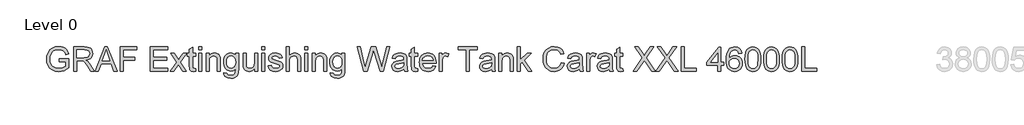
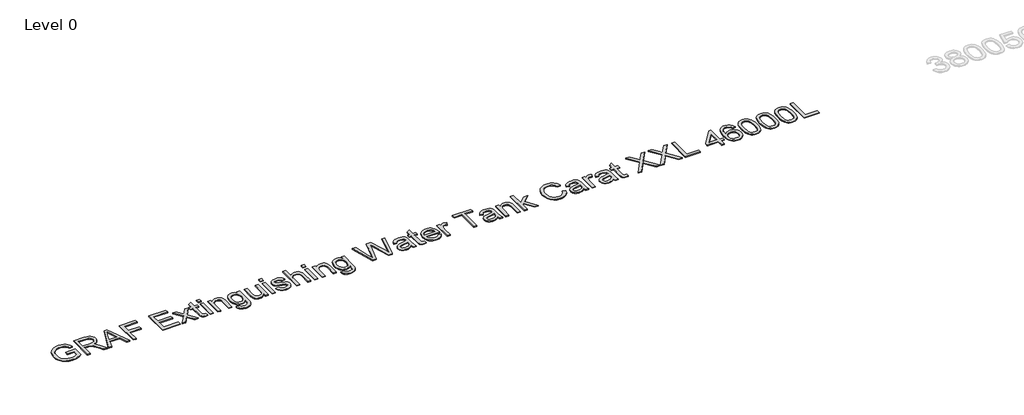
# One storey, part 7 of 37: 1 proxy.
"""IFC4 building model written with IfcOpenShell, lengths in millimetres."""

from ifc_helpers import new_model, si_unit, origin, origin_with_axes, place, context, project, spatial, polyline, outline, extrude, element, save

model = new_model("IFC4")

# Units and contexts
model_context = context("Model", 3, world=origin())
ifc_project = project(units=[si_unit("LENGTHUNIT", "METRE", prefix="MILLI")], contexts=[model_context])

# Site, building, storey
site = spatial("IfcSite", under=ifc_project)
building = spatial("IfcBuilding", under=site)
storey = spatial("IfcBuildingStorey", under=building, Name="Level 0", Elevation=0.0)

# Proxy
placement = place(None, origin())
element("IfcBuildingElementProxy", 1, Name="300mm Arial", ObjectType="300mm Arial", at=placement, inside=storey, context=model_context, shape_type="SweptSolid", body=[
    extrude(outline(polyline([(-17240.9940387, -25583.2545597), (-17240.9940387, -25545.5834434), (-17118.5629107, -25545.5834434), (-17118.5629107, -25658.2289103), (-17148.3153671, -25678.9222726), (-17179.0059225, -25693.7663111), (-17210.5610007, -25702.7058436), (-17242.9070251, -25705.6856877), (-17285.1674693, -25700.949207), (-17323.3628175, -25686.739765), (-17355.0926395, -25663.5540022), (-17377.9565055, -25631.8885595), (-17391.7796715, -25593.9047435), (-17396.3873935, -25551.7638609), (-17391.7980656, -25509.3194757), (-17378.0300819, -25469.8365406), (-17355.6536596, -25436.717964), (-17325.2390156, -25413.3666543), (-17288.1932987, -25399.5158972), (-17245.9236575, -25394.8989782), (-17214.8928112, -25397.5753197), (-17186.9889618, -25405.6043443), (-17163.4904994, -25418.4066377), (-17145.6758138, -25435.4027859), (-17132.4964413, -25457.4113262), (-17122.9039183, -25485.2507962), (-17157.6319786, -25495.0364573), (-17165.3850917, -25475.1800266), (-17174.8120678, -25460.1980323), (-17187.2832674, -25448.9040551), (-17204.169051, -25440.1116754), (-17224.3013932, -25434.4554897), (-17246.5122687, -25432.5700945), (-17272.5123287, -25434.6026425), (-17294.7415982, -25440.7002866), (-17313.1173039, -25450.0996716), (-17327.5566722, -25462.0374423), (-17346.9440533, -25491.0633317), (-17355.7732212, -25519.50061), (-17358.7162772, -25550.2187566), (-17355.175413, -25586.2436009), (-17344.5528204, -25615.8856927), (-17327.1703961, -25638.9334997), (-17303.3500369, -25655.1754898), (-17275.4737787, -25664.804801), (-17245.9236575, -25668.0145714), (-17219.831627, -25665.5957473), (-17194.3833899, -25658.3392749), (-17172.2828791, -25648.3420817), (-17156.234027, -25637.701095), (-17156.234027, -25583.2545597), (-17240.9940387, -25583.2545597)])), origin_with_axes(), (0.0, 0.0, 1.0), 10.0),
    extrude(outline(polyline([(-17057.3473467, -25700.9767982), (-17057.3473467, -25399.6078677), (-16927.4850024, -25399.6078677), (-16892.5821982, -25401.6404158), (-16867.1891434, -25407.7380598), (-16848.6294968, -25418.9952489), (-16834.2269167, -25436.5064318), (-16824.9838815, -25458.2206666), (-16821.9028698, -25482.087011), (-16827.0072325, -25511.7750881), (-16842.3203206, -25536.3863935), (-16853.9200997, -25546.4157764), (-16868.3019865, -25554.4310054), (-16905.4120827, -25564.4190016), (-16884.0013506, -25580.532233), (-16853.467145, -25619.3069952), (-16803.2144645, -25700.9767982), (-16846.9924219, -25700.9767982), (-16886.2086426, -25638.5104354), (-16914.5355562, -25597.1604991), (-16934.4379722, -25577.6259652), (-16952.3538253, -25570.4522663), (-16974.2060158, -25569.1278911), (-17019.6762304, -25569.1278911), (-17019.6762304, -25700.9767982), (-17057.3473467, -25700.9767982)]), holes=[polyline([(-17019.6762304, -25531.4567748), (-16935.3576771, -25531.4567748), (-16911.1418448, -25530.1232026), (-16892.3522719, -25526.1224859), (-16878.2072092, -25519.1879103), (-16867.9249074, -25509.0527613), (-16861.6617165, -25496.7930938), (-16859.5739861, -25483.4849626), (-16863.5563087, -25465.109257), (-16875.5032765, -25450.3020067), (-16896.058683, -25440.5347397), (-16925.8663217, -25437.278984), (-17019.6762304, -25437.278984), (-17019.6762304, -25531.4567748)])]), origin_with_axes(), (0.0, 0.0, 1.0), 10.0),
    extrude(outline(polyline([(-16791.0743586, -25700.9767982), (-16670.7769462, -25399.6078677), (-16638.6976362, -25399.6078677), (-16518.4002238, -25700.9767982), (-16558.2050557, -25700.9767982), (-16592.7123868, -25606.7990074), (-16716.835772, -25606.7990074), (-16751.2695268, -25700.9767982), (-16791.0743586, -25700.9767982)]), holes=[polyline([(-16703.003409, -25569.1278911), (-16606.4711735, -25569.1278911), (-16633.6208647, -25495.0364573), (-16654.7372912, -25437.278984), (-16673.499273, -25488.5617342), (-16703.003409, -25569.1278911)])]), origin_with_axes(), (0.0, 0.0, 1.0), 10.0),
    extrude(outline(polyline([(-16478.1539335, -25700.9767982), (-16478.1539335, -25399.6078677), (-16275.6716834, -25399.6078677), (-16275.6716834, -25437.278984), (-16440.4828172, -25437.278984), (-16440.4828172, -25526.7478853), (-16299.2161311, -25526.7478853), (-16299.2161311, -25564.4190016), (-16440.4828172, -25564.4190016), (-16440.4828172, -25700.9767982), (-16478.1539335, -25700.9767982)])), origin_with_axes(), (0.0, 0.0, 1.0), 10.0),
    extrude(outline(polyline([(-16106.15166, -25700.9767982), (-16106.15166, -25399.6078677), (-15889.5427413, -25399.6078677), (-15889.5427413, -25437.278984), (-16068.4805437, -25437.278984), (-16068.4805437, -25526.7478853), (-15898.9605203, -25526.7478853), (-15898.9605203, -25564.4190016), (-16068.4805437, -25564.4190016), (-16068.4805437, -25663.3056819), (-15884.8338517, -25663.3056819), (-15884.8338517, -25700.9767982), (-16106.15166, -25700.9767982)])), origin_with_axes(), (0.0, 0.0, 1.0), 10.0),
    extrude(outline(polyline([(-15856.5805145, -25700.9767982), (-15776.0879339, -25589.7292828), (-15851.8716249, -25479.6589899), (-15806.5485631, -25479.6589899), (-15769.9810928, -25532.6339972), (-15752.9113682, -25557.6499729), (-15738.122512, -25537.1957339), (-15696.4782702, -25479.6589899), (-15651.1552084, -25479.6589899), (-15730.7648721, -25589.7292828), (-15654.0982643, -25700.9767982), (-15699.4213261, -25700.9767982), (-15745.5537283, -25634.0958515), (-15754.0150142, -25621.8821692), (-15811.2574527, -25700.9767982), (-15856.5805145, -25700.9767982)])), origin_with_axes(), (0.0, 0.0, 1.0), 10.0),
    extrude(outline(polyline([(-15541.0849154, -25669.5596758), (-15536.3760259, -25702.0804442), (-15564.5557867, -25705.6856877), (-15582.6371868, -25704.1221892), (-15596.1200619, -25699.4316938), (-15605.6482056, -25692.2028126), (-15611.8654113, -25683.0241568), (-15615.2867139, -25667.2604133), (-15616.427148, -25640.276269), (-15616.427148, -25517.3301062), (-15644.6804853, -25517.3301062), (-15644.6804853, -25479.6589899), (-15616.427148, -25479.6589899), (-15616.427148, -25425.8746422), (-15578.7560317, -25403.7281461), (-15578.7560317, -25479.6589899), (-15541.0849154, -25479.6589899), (-15541.0849154, -25517.3301062), (-15578.7560317, -25517.3301062), (-15578.7560317, -25639.172623), (-15576.769469, -25658.5967923), (-15570.331534, -25665.4761856), (-15557.4924524, -25668.0145714), (-15541.0849154, -25669.5596758)])), origin_with_axes(), (0.0, 0.0, 1.0), 10.0),
    extrude(outline(polyline([(-15503.4137991, -25437.278984), (-15503.4137991, -25399.6078677), (-15465.7426828, -25399.6078677), (-15465.7426828, -25437.278984), (-15503.4137991, -25437.278984)])), origin_with_axes(), (0.0, 0.0, 1.0), 10.0),
    extrude(outline(polyline([(-15503.4137991, -25700.9767982), (-15503.4137991, -25479.6589899), (-15465.7426828, -25479.6589899), (-15465.7426828, -25700.9767982), (-15503.4137991, -25700.9767982)])), origin_with_axes(), (0.0, 0.0, 1.0), 10.0),
    extrude(outline(polyline([(-15409.2360084, -25700.9767982), (-15409.2360084, -25479.6589899), (-15371.564892, -25479.6589899), (-15371.564892, -25510.5610775), (-15358.4774901, -25494.981275), (-15342.7597318, -25483.8528446), (-15324.4116173, -25477.1757864), (-15303.4331465, -25474.9501003), (-15284.8643028, -25476.7435251), (-15267.8589576, -25482.1237992), (-15253.6771067, -25490.4195382), (-15243.5787459, -25500.9593574), (-15232.2847687, -25528.6608716), (-15230.2982059, -25565.0811892), (-15230.2982059, -25700.9767982), (-15267.9693222, -25700.9767982), (-15267.9693222, -25570.1579607), (-15272.3103297, -25536.8278519), (-15278.3160033, -25526.9042351), (-15287.6510089, -25519.2063044), (-15299.6163708, -25514.2674886), (-15313.5131132, -25512.6212166), (-15335.5768359, -25516.3184307), (-15354.3848029, -25527.4100729), (-15361.9010919, -25536.4645685), (-15367.2698698, -25548.8391991), (-15371.564892, -25583.5488653), (-15371.564892, -25700.9767982), (-15409.2360084, -25700.9767982)])), origin_with_axes(), (0.0, 0.0, 1.0), 10.0),
    extrude(outline(polyline([(-15187.9182001, -25719.8123563), (-15150.2470837, -25724.5212459), (-15146.0900172, -25736.2934697), (-15138.0334015, -25744.3868736), (-15122.1960816, -25750.6776557), (-15101.4659312, -25752.7745831), (-15079.3562233, -25750.4017442), (-15062.9118981, -25743.2832276), (-15051.5075562, -25731.8788858), (-15044.5177983, -25716.6485712), (-15041.9426244, -25672.7234609), (-15054.4782034, -25685.084296), (-15068.4669162, -25693.9134639), (-15083.908763, -25699.2109646), (-15100.8037436, -25700.9767982), (-15121.4580184, -25698.9212575), (-15139.6428852, -25692.7546356), (-15155.3583442, -25682.4769323), (-15168.6043953, -25668.0881478), (-15179.1143241, -25650.8252852), (-15186.621416, -25631.9253477), (-15191.1256712, -25611.3883353), (-15192.6270896, -25589.214248), (-15189.932354, -25558.7996041), (-15181.8481471, -25530.8313754), (-15168.6595776, -25507.1305779), (-15150.6517539, -25489.5182274), (-15128.4408785, -25478.5921321), (-15102.6431536, -25474.9501003), (-15085.0262045, -25477.0102395), (-15069.0371333, -25483.190657), (-15054.6759399, -25493.4913529), (-15041.9426244, -25507.9123271), (-15041.9426244, -25479.6589899), (-15004.2715081, -25479.6589899), (-15004.2715081, -25670.7368982), (-15006.846682, -25714.8551464), (-15014.5722039, -25743.908627), (-15027.8803351, -25763.1764465), (-15047.2033369, -25777.9377116), (-15072.118145, -25787.3187024), (-15102.2016952, -25790.4456994), (-15137.2516523, -25786.0403125), (-15164.851999, -25772.8241518), (-15175.2469646, -25762.9028343), (-15182.55632, -25750.7604292), (-15186.7800651, -25736.3969365), (-15187.9182001, -25719.8123563)]), holes=[polyline([(-15154.9559733, -25586.6390741), (-15150.9368625, -25621.1923905), (-15138.8795301, -25644.9483703), (-15120.7521448, -25658.716354), (-15098.5228752, -25663.3056819), (-15076.4591526, -25658.7439451), (-15058.2397968, -25645.0587349), (-15046.0169175, -25621.6062577), (-15041.9426244, -25587.7427201), (-15046.1364791, -25555.0839959), (-15058.7180433, -25531.5671394), (-15077.2041136, -25517.3576973), (-15099.1114864, -25512.6212166), (-15120.6233861, -25517.2841209), (-15138.6588009, -25531.2728338), (-15150.8816802, -25554.4402024), (-15154.9559733, -25586.6390741)])]), origin_with_axes(), (0.0, 0.0, 1.0), 10.0),
    extrude(outline(polyline([(-14806.4981475, -25700.9767982), (-14806.4981475, -25662.9377999), (-14820.1281754, -25681.6400008), (-14836.0022835, -25694.9987158), (-14854.1204717, -25703.0139447), (-14874.4827402, -25705.6856877), (-14892.8308547, -25703.8094895), (-14909.9097763, -25698.180895), (-14924.23878, -25689.7196091), (-14934.3371408, -25679.3453369), (-14945.5575416, -25651.6070344), (-14947.7648336, -25616.5846685), (-14947.7648336, -25479.6589899), (-14910.0937173, -25479.6589899), (-14910.0937173, -25598.8527563), (-14907.8128489, -25637.2596366), (-14902.3222101, -25650.0711271), (-14892.9136281, -25659.8108029), (-14880.2125022, -25665.9636293), (-14864.8442319, -25668.0145714), (-14848.5930448, -25665.917644), (-14833.3903213, -25659.6268619), (-14820.8547423, -25649.7216392), (-14812.6049886, -25636.78139), (-14808.0248577, -25619.0586749), (-14806.4981475, -25594.8060544), (-14806.4981475, -25479.6589899), (-14768.8270311, -25479.6589899), (-14768.8270311, -25700.9767982), (-14806.4981475, -25700.9767982)])), origin_with_axes(), (0.0, 0.0, 1.0), 10.0),
    extrude(outline(polyline([(-14717.0292462, -25437.278984), (-14717.0292462, -25399.6078677), (-14679.3581299, -25399.6078677), (-14679.3581299, -25437.278984), (-14717.0292462, -25437.278984)])), origin_with_axes(), (0.0, 0.0, 1.0), 10.0),
    extrude(outline(polyline([(-14717.0292462, -25700.9767982), (-14717.0292462, -25479.6589899), (-14679.3581299, -25479.6589899), (-14679.3581299, -25700.9767982), (-14717.0292462, -25700.9767982)])), origin_with_axes(), (0.0, 0.0, 1.0), 10.0),
    extrude(outline(polyline([(-14636.9781241, -25635.0523446), (-14599.3070078, -25630.3434551), (-14593.3657135, -25646.4566865), (-14581.8694012, -25658.3024867), (-14564.7444943, -25665.5865502), (-14541.9174165, -25668.0145714), (-14519.3662502, -25665.7888853), (-14503.5105362, -25659.1118271), (-14494.1295453, -25649.4365307), (-14491.0025484, -25638.2161298), (-14494.1479394, -25628.6144097), (-14503.5841126, -25621.293558), (-14542.3588749, -25610.5514038), (-14599.0862786, -25592.1205158), (-14613.4428734, -25582.8590866), (-14623.8447368, -25570.5994191), (-14630.1631101, -25556.1232626), (-14632.2692345, -25540.2123663), (-14630.5769774, -25525.6166481), (-14625.5002058, -25512.1429701), (-14617.4987724, -25500.324761), (-14607.0325297, -25490.6954497), (-14583.0834118, -25479.5486253), (-14550.673008, -25474.9501003), (-14526.153673, -25476.7987074), (-14504.8349114, -25482.3445284), (-14487.6916104, -25491.0449376), (-14475.6986574, -25502.357309), (-14467.7524063, -25517.118574), (-14462.7492112, -25536.1656643), (-14500.4203275, -25540.8745539), (-14505.1752023, -25529.0195566), (-14514.5837843, -25520.0892211), (-14528.738044, -25514.4882178), (-14547.729952, -25512.6212166), (-14569.3614134, -25514.4054443), (-14583.7823876, -25519.7581274), (-14591.8941856, -25527.4836493), (-14594.5981182, -25536.3863935), (-14590.1099579, -25547.349277), (-14576.0568657, -25555.6634101), (-14543.6096737, -25563.6832376), (-14488.3170098, -25581.4151497), (-14473.7120946, -25589.8948297), (-14462.6388466, -25601.5015067), (-14455.6582857, -25616.2719688), (-14453.3314321, -25634.2430043), (-14456.0629559, -25652.821045), (-14464.2575273, -25670.2954398), (-14477.6024467, -25685.2958281), (-14495.7850143, -25696.4518496), (-14517.7475694, -25703.3772282), (-14542.4324513, -25705.6856877), (-14580.4162673, -25701.2343156), (-14608.1361757, -25687.8801991), (-14626.64064, -25665.7704912), (-14636.9781241, -25635.0523446)])), origin_with_axes(), (0.0, 0.0, 1.0), 10.0),
    extrude(outline(polyline([(-14410.9514262, -25700.9767982), (-14410.9514262, -25399.6078677), (-14373.2803099, -25399.6078677), (-14373.2803099, -25510.4139247), (-14359.4433484, -25494.8985015), (-14343.9049326, -25483.8160564), (-14326.6650626, -25477.1665894), (-14307.7237384, -25474.9501003), (-14284.970237, -25477.3689245), (-14265.4173089, -25484.6253968), (-14250.0214474, -25496.1493003), (-14239.7391457, -25511.3704179), (-14233.9450043, -25532.2845093), (-14232.0136238, -25560.8873344), (-14232.0136238, -25700.9767982), (-14269.6847401, -25700.9767982), (-14269.6847401, -25564.7868836), (-14272.6829784, -25541.2056477), (-14281.6776931, -25525.0556281), (-14296.1722437, -25515.7298195), (-14315.6699895, -25512.6212166), (-14331.5900828, -25514.718144), (-14346.5352889, -25521.0089261), (-14358.914518, -25530.8865577), (-14367.1366806, -25543.7440334), (-14371.7444026, -25560.8321521), (-14373.2803099, -25583.4017125), (-14373.2803099, -25700.9767982), (-14410.9514262, -25700.9767982)])), origin_with_axes(), (0.0, 0.0, 1.0), 10.0),
    extrude(outline(polyline([(-14180.2158389, -25437.278984), (-14180.2158389, -25399.6078677), (-14142.5447226, -25399.6078677), (-14142.5447226, -25437.278984), (-14180.2158389, -25437.278984)])), origin_with_axes(), (0.0, 0.0, 1.0), 10.0),
    extrude(outline(polyline([(-14180.2158389, -25700.9767982), (-14180.2158389, -25479.6589899), (-14142.5447226, -25479.6589899), (-14142.5447226, -25700.9767982), (-14180.2158389, -25700.9767982)])), origin_with_axes(), (0.0, 0.0, 1.0), 10.0),
    extrude(outline(polyline([(-14086.0380481, -25700.9767982), (-14086.0380481, -25479.6589899), (-14048.3669318, -25479.6589899), (-14048.3669318, -25510.5610775), (-14035.2795298, -25494.981275), (-14019.5617716, -25483.8528446), (-14001.2136571, -25477.1757864), (-13980.2351863, -25474.9501003), (-13961.6663426, -25476.7435251), (-13944.6609974, -25482.1237992), (-13930.4791464, -25490.4195382), (-13920.3807857, -25500.9593574), (-13909.0868084, -25528.6608716), (-13907.1002456, -25565.0811892), (-13907.1002456, -25700.9767982), (-13944.771362, -25700.9767982), (-13944.771362, -25570.1579607), (-13949.1123695, -25536.8278519), (-13955.1180431, -25526.9042351), (-13964.4530487, -25519.2063044), (-13976.4184106, -25514.2674886), (-13990.315153, -25512.6212166), (-14012.3788756, -25516.3184307), (-14031.1868426, -25527.4100729), (-14038.7031316, -25536.4645685), (-14044.0719095, -25548.8391991), (-14048.3669318, -25583.5488653), (-14048.3669318, -25700.9767982), (-14086.0380481, -25700.9767982)])), origin_with_axes(), (0.0, 0.0, 1.0), 10.0),
    extrude(outline(polyline([(-13864.7202398, -25719.8123563), (-13827.0491235, -25724.5212459), (-13822.8920569, -25736.2934697), (-13814.8354413, -25744.3868736), (-13798.9981214, -25750.6776557), (-13778.2679709, -25752.7745831), (-13756.158263, -25750.4017442), (-13739.7139378, -25743.2832276), (-13728.309596, -25731.8788858), (-13721.3198381, -25716.6485712), (-13718.7446641, -25672.7234609), (-13731.2802431, -25685.084296), (-13745.268956, -25693.9134639), (-13760.7108027, -25699.2109646), (-13777.6057833, -25700.9767982), (-13798.2600581, -25698.9212575), (-13816.444925, -25692.7546356), (-13832.160384, -25682.4769323), (-13845.4064351, -25668.0881478), (-13855.9163638, -25650.8252852), (-13863.4234558, -25631.9253477), (-13867.9277109, -25611.3883353), (-13869.4291293, -25589.214248), (-13866.7343937, -25558.7996041), (-13858.6501869, -25530.8313754), (-13845.4616174, -25507.1305779), (-13827.4537937, -25489.5182274), (-13805.2429182, -25478.5921321), (-13779.4451933, -25474.9501003), (-13761.8282443, -25477.0102395), (-13745.8391731, -25483.190657), (-13731.4779797, -25493.4913529), (-13718.7446641, -25507.9123271), (-13718.7446641, -25479.6589899), (-13681.0735478, -25479.6589899), (-13681.0735478, -25670.7368982), (-13683.6487218, -25714.8551464), (-13691.3742437, -25743.908627), (-13704.6823748, -25763.1764465), (-13724.0053766, -25777.9377116), (-13748.9201848, -25787.3187024), (-13779.0037349, -25790.4456994), (-13814.053692, -25786.0403125), (-13841.6540387, -25772.8241518), (-13852.0490043, -25762.9028343), (-13859.3583597, -25750.7604292), (-13863.5821049, -25736.3969365), (-13864.7202398, -25719.8123563)]), holes=[polyline([(-13831.758013, -25586.6390741), (-13827.7389022, -25621.1923905), (-13815.6815698, -25644.9483703), (-13797.5541845, -25658.716354), (-13775.324915, -25663.3056819), (-13753.2611923, -25658.7439451), (-13735.0418365, -25645.0587349), (-13722.8189572, -25621.6062577), (-13718.7446641, -25587.7427201), (-13722.9385189, -25555.0839959), (-13735.5200831, -25531.5671394), (-13754.0061534, -25517.3576973), (-13775.9135262, -25512.6212166), (-13797.4254258, -25517.2841209), (-13815.4608406, -25531.2728338), (-13827.6837199, -25554.4402024), (-13831.758013, -25586.6390741)])]), origin_with_axes(), (0.0, 0.0, 1.0), 10.0),
    extrude(outline(polyline([(-13448.2042449, -25700.9767982), (-13530.3890826, -25399.6078677), (-13491.5407439, -25399.6078677), (-13443.8632373, -25597.6755339), (-13429.1479575, -25658.8175215), (-13413.4026081, -25604.7388682), (-13353.6585721, -25399.6078677), (-13297.6669324, -25399.6078677), (-13254.256857, -25548.3057702), (-13235.6604221, -25603.4880695), (-13221.9568178, -25658.8175215), (-13207.6829964, -25599.4413675), (-13159.5640314, -25399.6078677), (-13120.7156928, -25399.6078677), (-13202.9741069, -25700.9767982), (-13243.2203971, -25700.9767982), (-13315.472421, -25468.4753772), (-13325.5523877, -25436.0281853), (-13336.8831531, -25475.0972531), (-13402.7340303, -25700.9767982), (-13448.2042449, -25700.9767982)])), origin_with_axes(), (0.0, 0.0, 1.0), 10.0),
    extrude(outline(polyline([(-12946.4867798, -25672.7234609), (-12964.4854065, -25688.1561106), (-12983.017462, -25698.2544714), (-13002.5060107, -25703.8278836), (-13023.3741168, -25705.6856877), (-13054.8556186, -25701.2159215), (-13078.0781695, -25687.8066228), (-13092.3979762, -25667.4443543), (-13097.1712451, -25642.1156789), (-13095.3686233, -25626.4990883), (-13089.960758, -25612.3172373), (-13081.6190337, -25600.1771315), (-13071.0148352, -25590.685776), (-13044.6376962, -25578.324941), (-13012.0433514, -25572.6595583), (-12973.5261065, -25566.6998699), (-12946.707509, -25559.710112), (-12946.4867798, -25551.3224025), (-12949.0803479, -25534.5101954), (-12956.8610521, -25523.5105237), (-12974.2618705, -25515.3435434), (-12998.505294, -25512.6212166), (-13020.9460957, -25514.4330355), (-13036.6178687, -25519.868492), (-13047.3048406, -25529.9208675), (-13054.7912392, -25545.5834434), (-13092.4623555, -25540.8745539), (-13085.9232531, -25520.2731621), (-13076.1651831, -25504.0863544), (-13062.2776378, -25491.7071252), (-13043.3501092, -25482.5284694), (-13020.2011346, -25476.8446926), (-12993.6492516, -25474.9501003), (-12968.1826205, -25476.6239634), (-12947.995096, -25481.6455527), (-12932.7739785, -25489.1963306), (-12922.2065682, -25498.4577598), (-12915.1984162, -25509.9080869), (-12910.6550735, -25524.0255585), (-12908.8156635, -25556.9877853), (-12908.8156635, -25603.8559515), (-12906.9026772, -25669.3021584), (-12899.3978845, -25700.9767982), (-12937.0690008, -25700.9767982), (-12946.4867798, -25672.7234609)]), holes=[polyline([(-12946.4867798, -25597.3812283), (-13007.2608854, -25608.932723), (-13039.6712892, -25615.0395641), (-13054.3497808, -25624.972378), (-13059.5001288, -25639.4669286), (-13056.6950285, -25650.6689353), (-13048.2797279, -25659.8475911), (-13034.4381678, -25665.9728263), (-13015.3542893, -25668.0145714), (-12995.1207796, -25665.7612942), (-12977.2417146, -25659.0014625), (-12962.747164, -25649.0410575), (-12952.6671974, -25637.1860602), (-12948.1974311, -25624.972378), (-12946.707509, -25608.0498062), (-12946.4867798, -25597.3812283)])]), origin_with_axes(), (0.0, 0.0, 1.0), 10.0),
    extrude(outline(polyline([(-12776.9667565, -25669.5596758), (-12772.2578669, -25702.0804442), (-12800.4376278, -25705.6856877), (-12818.5190278, -25704.1221892), (-12832.0019029, -25699.4316938), (-12841.5300466, -25692.2028126), (-12847.7472523, -25683.0241568), (-12851.1685549, -25667.2604133), (-12852.3089891, -25640.276269), (-12852.3089891, -25517.3301062), (-12880.5623263, -25517.3301062), (-12880.5623263, -25479.6589899), (-12852.3089891, -25479.6589899), (-12852.3089891, -25425.8746422), (-12814.6378728, -25403.7281461), (-12814.6378728, -25479.6589899), (-12776.9667565, -25479.6589899), (-12776.9667565, -25517.3301062), (-12814.6378728, -25517.3301062), (-12814.6378728, -25639.172623), (-12812.65131, -25658.5967923), (-12806.2133751, -25665.4761856), (-12793.3742934, -25668.0145714), (-12776.9667565, -25669.5596758)])), origin_with_axes(), (0.0, 0.0, 1.0), 10.0),
    extrude(outline(polyline([(-12584.3437438, -25635.0523446), (-12547.4083915, -25639.7612342), (-12560.7165226, -25667.5915071), (-12581.9525108, -25688.3952339), (-12610.6381094, -25701.3630743), (-12646.2950718, -25705.6856877), (-12669.669374, -25703.8209859), (-12690.4960935, -25698.2268803), (-12708.7752301, -25688.9033709), (-12724.506784, -25675.8504579), (-12737.1573261, -25659.4314246), (-12746.1934276, -25640.0095545), (-12751.6150885, -25617.5848477), (-12753.4223088, -25592.157304), (-12751.5966944, -25565.8675369), (-12746.1198512, -25542.6955698), (-12736.9917792, -25522.6414025), (-12724.2124784, -25505.7050351), (-12708.5223113, -25492.2497512), (-12690.6616404, -25482.638834), (-12670.6304658, -25476.8722838), (-12648.4287873, -25474.9501003), (-12626.9421796, -25476.8676852), (-12607.5111124, -25482.6204399), (-12590.1355859, -25492.2083644), (-12574.8156001, -25505.6314587), (-12562.3099115, -25522.5310379), (-12553.3772768, -25542.548417), (-12548.017696, -25565.6835959), (-12546.2311691, -25591.9365748), (-12546.4518983, -25602.0901179), (-12715.7511925, -25602.0901179), (-12709.2304841, -25630.2882728), (-12694.0829429, -25651.0184232), (-12672.2215554, -25663.7655344), (-12645.5593078, -25668.0145714), (-12625.509739, -25666.0464027), (-12608.6239555, -25660.1418967), (-12594.901957, -25649.9331713), (-12584.3437438, -25635.0523446)]), holes=[polyline([(-12715.7511925, -25564.4190016), (-12583.9022854, -25564.4190016), (-12588.997451, -25544.5165856), (-12598.9854472, -25530.2795524), (-12620.9480023, -25517.0358006), (-12648.5759401, -25512.6212166), (-12673.9689949, -25516.1436868), (-12694.9658597, -25526.7110971), (-12709.5615779, -25543.1830134), (-12715.7511925, -25564.4190016)])]), origin_with_axes(), (0.0, 0.0, 1.0), 10.0),
    extrude(outline(polyline([(-12508.5600528, -25700.9767982), (-12508.5600528, -25479.6589899), (-12475.597826, -25479.6589899), (-12475.597826, -25512.4004875), (-12463.420932, -25493.4177765), (-12452.2005311, -25482.2341638), (-12440.9433421, -25476.7711162), (-12428.6560834, -25474.9501003), (-12409.8941017, -25477.8563681), (-12390.8378143, -25486.5751714), (-12403.4193786, -25520.3467385), (-12416.6631304, -25514.5525971), (-12429.9068822, -25512.6212166), (-12441.1548742, -25514.4790207), (-12451.2072497, -25520.052433), (-12459.3282448, -25528.918389), (-12464.7820954, -25540.6538247), (-12469.3622262, -25561.6966748), (-12470.8889365, -25584.6525113), (-12470.8889365, -25700.9767982), (-12508.5600528, -25700.9767982)])), origin_with_axes(), (0.0, 0.0, 1.0), 10.0),
    extrude(outline(polyline([(-12169.520006, -25700.9767982), (-12169.520006, -25437.278984), (-12268.4066863, -25437.278984), (-12268.4066863, -25399.6078677), (-12032.9622094, -25399.6078677), (-12032.9622094, -25437.278984), (-12131.8488897, -25437.278984), (-12131.8488897, -25700.9767982), (-12169.520006, -25700.9767982)])), origin_with_axes(), (0.0, 0.0, 1.0), 10.0),
    extrude(outline(polyline([(-11854.024407, -25672.7234609), (-11872.0230336, -25688.1561106), (-11890.5550891, -25698.2544714), (-11910.0436378, -25703.8278836), (-11930.911744, -25705.6856877), (-11962.3932457, -25701.2159215), (-11985.6157966, -25687.8066228), (-11999.9356033, -25667.4443543), (-12004.7088722, -25642.1156789), (-12002.9062504, -25626.4990883), (-11997.4983851, -25612.3172373), (-11989.1566608, -25600.1771315), (-11978.5524623, -25590.685776), (-11952.1753233, -25578.324941), (-11919.5809785, -25572.6595583), (-11881.0637336, -25566.6998699), (-11854.2451362, -25559.710112), (-11854.024407, -25551.3224025), (-11856.617975, -25534.5101954), (-11864.3986792, -25523.5105237), (-11881.7994976, -25515.3435434), (-11906.0429211, -25512.6212166), (-11928.4837228, -25514.4330355), (-11944.1554958, -25519.868492), (-11954.8424677, -25529.9208675), (-11962.3288663, -25545.5834434), (-11999.9999826, -25540.8745539), (-11993.4608802, -25520.2731621), (-11983.7028103, -25504.0863544), (-11969.8152649, -25491.7071252), (-11950.8877363, -25482.5284694), (-11927.7387617, -25476.8446926), (-11901.1868787, -25474.9501003), (-11875.7202476, -25476.6239634), (-11855.5327231, -25481.6455527), (-11840.3116056, -25489.1963306), (-11829.7441953, -25498.4577598), (-11822.7360433, -25509.9080869), (-11818.1927006, -25524.0255585), (-11816.3532907, -25556.9877853), (-11816.3532907, -25603.8559515), (-11814.4403043, -25669.3021584), (-11806.9355116, -25700.9767982), (-11844.6066279, -25700.9767982), (-11854.024407, -25672.7234609)]), holes=[polyline([(-11854.024407, -25597.3812283), (-11914.7985126, -25608.932723), (-11947.2089163, -25615.0395641), (-11961.8874079, -25624.972378), (-11967.0377559, -25639.4669286), (-11964.2326557, -25650.6689353), (-11955.817355, -25659.8475911), (-11941.975795, -25665.9728263), (-11922.8919165, -25668.0145714), (-11902.6584067, -25665.7612942), (-11884.7793418, -25659.0014625), (-11870.2847911, -25649.0410575), (-11860.2048245, -25637.1860602), (-11855.7350582, -25624.972378), (-11854.2451362, -25608.0498062), (-11854.024407, -25597.3812283)])]), origin_with_axes(), (0.0, 0.0, 1.0), 10.0),
    extrude(outline(polyline([(-11764.5555057, -25700.9767982), (-11764.5555057, -25479.6589899), (-11726.8843894, -25479.6589899), (-11726.8843894, -25510.5610775), (-11713.7969875, -25494.981275), (-11698.0792292, -25483.8528446), (-11679.7311147, -25477.1757864), (-11658.7526439, -25474.9501003), (-11640.1838002, -25476.7435251), (-11623.178455, -25482.1237992), (-11608.9966041, -25490.4195382), (-11598.8982433, -25500.9593574), (-11587.6042661, -25528.6608716), (-11585.6177033, -25565.0811892), (-11585.6177033, -25700.9767982), (-11623.2888196, -25700.9767982), (-11623.2888196, -25570.1579607), (-11627.6298271, -25536.8278519), (-11633.6355007, -25526.9042351), (-11642.9705063, -25519.2063044), (-11654.9358682, -25514.2674886), (-11668.8326106, -25512.6212166), (-11690.8963333, -25516.3184307), (-11709.7043003, -25527.4100729), (-11717.2205893, -25536.4645685), (-11722.5893671, -25548.8391991), (-11726.8843894, -25583.5488653), (-11726.8843894, -25700.9767982), (-11764.5555057, -25700.9767982)])), origin_with_axes(), (0.0, 0.0, 1.0), 10.0),
    extrude(outline(polyline([(-11533.8199184, -25700.9767982), (-11533.8199184, -25399.6078677), (-11496.1488021, -25399.6078677), (-11496.1488021, -25561.549522), (-11411.683096, -25479.6589899), (-11359.5910054, -25479.6589899), (-11445.0867811, -25562.5795916), (-11354.8821159, -25700.9767982), (-11398.8808025, -25700.9767982), (-11472.0893196, -25588.7727896), (-11496.1488021, -25612.0965081), (-11496.1488021, -25700.9767982), (-11533.8199184, -25700.9767982)])), origin_with_axes(), (0.0, 0.0, 1.0), 10.0),
    extrude(outline(polyline([(-10987.5887319, -25593.8495612), (-10949.9176156, -25603.5616459), (-10957.3718245, -25626.9888312), (-10967.3000399, -25647.4591649), (-10979.7022617, -25664.9726472), (-10994.5784898, -25679.5292779), (-11011.5930321, -25690.9727072), (-11030.4101962, -25699.1465853), (-11051.029982, -25704.0509121), (-11073.4523896, -25705.6856877), (-11117.1475736, -25700.7376749), (-11151.8480428, -25685.8936364), (-11178.445911, -25661.668607), (-11197.8332922, -25628.5776215), (-11209.6698954, -25589.6741005), (-11213.6154298, -25548.0114646), (-11209.1548606, -25504.0679603), (-11195.773153, -25466.1209325), (-11174.1692828, -25435.3751947), (-11145.0422259, -25413.0355606), (-11110.4981065, -25399.4331238), (-11072.6430492, -25394.8989782), (-11031.3390982, -25400.766696), (-11013.370362, -25408.1013433), (-10997.190452, -25418.3698495), (-10983.0660826, -25431.3009016), (-10971.2639684, -25446.6231867), (-10954.6265052, -25484.4414558), (-10992.2976215, -25493.4177765), (-11005.3574323, -25465.9461885), (-11023.1997091, -25447.1014333), (-11046.045181, -25436.2029292), (-11074.1145772, -25432.5700945), (-11106.4697987, -25436.5984023), (-11133.0492728, -25448.6833259), (-11153.2184032, -25467.5556722), (-11166.3425934, -25491.9462485), (-11173.5438834, -25519.5190041), (-11175.9443135, -25547.9378882), (-11173.102425, -25582.7395249), (-11164.5767598, -25612.8322721), (-11150.045421, -25637.0664986), (-11129.1865119, -25654.292573), (-11104.1797332, -25664.5840718), (-11077.2047859, -25668.0145714), (-11045.7600724, -25663.3424701), (-11019.5576773, -25649.3261661), (-10999.774823, -25626.1128122), (-10987.5887319, -25593.8495612)])), origin_with_axes(), (0.0, 0.0, 1.0), 10.0),
    extrude(outline(polyline([(-10761.5620341, -25672.7234609), (-10779.5606607, -25688.1561106), (-10798.0927162, -25698.2544714), (-10817.5812649, -25703.8278836), (-10838.4493711, -25705.6856877), (-10869.9308728, -25701.2159215), (-10893.1534238, -25687.8066228), (-10907.4732304, -25667.4443543), (-10912.2464993, -25642.1156789), (-10910.4438775, -25626.4990883), (-10905.0360122, -25612.3172373), (-10896.694288, -25600.1771315), (-10886.0900895, -25590.685776), (-10859.7129504, -25578.324941), (-10827.1186056, -25572.6595583), (-10788.6013607, -25566.6998699), (-10761.7827633, -25559.710112), (-10761.5620341, -25551.3224025), (-10764.1556022, -25534.5101954), (-10771.9363064, -25523.5105237), (-10789.3371247, -25515.3435434), (-10813.5805482, -25512.6212166), (-10836.0213499, -25514.4330355), (-10851.6931229, -25519.868492), (-10862.3800949, -25529.9208675), (-10869.8664935, -25545.5834434), (-10907.5376098, -25540.8745539), (-10900.9985073, -25520.2731621), (-10891.2404374, -25504.0863544), (-10877.3528921, -25491.7071252), (-10858.4253634, -25482.5284694), (-10835.2763889, -25476.8446926), (-10808.7245059, -25474.9501003), (-10783.2578748, -25476.6239634), (-10763.0703503, -25481.6455527), (-10747.8492327, -25489.1963306), (-10737.2818224, -25498.4577598), (-10730.2736704, -25509.9080869), (-10725.7303278, -25524.0255585), (-10723.8909178, -25556.9877853), (-10723.8909178, -25603.8559515), (-10721.9779314, -25669.3021584), (-10714.4731387, -25700.9767982), (-10752.144255, -25700.9767982), (-10761.5620341, -25672.7234609)]), holes=[polyline([(-10761.5620341, -25597.3812283), (-10822.3361397, -25608.932723), (-10854.7465435, -25615.0395641), (-10869.4250351, -25624.972378), (-10874.575383, -25639.4669286), (-10871.7702828, -25650.6689353), (-10863.3549822, -25659.8475911), (-10849.5134221, -25665.9728263), (-10830.4295436, -25668.0145714), (-10810.1960338, -25665.7612942), (-10792.3169689, -25659.0014625), (-10777.8224183, -25649.0410575), (-10767.7424516, -25637.1860602), (-10763.2726854, -25624.972378), (-10761.7827633, -25608.0498062), (-10761.5620341, -25597.3812283)])]), origin_with_axes(), (0.0, 0.0, 1.0), 10.0),
    extrude(outline(polyline([(-10672.0931329, -25700.9767982), (-10672.0931329, -25479.6589899), (-10639.1309061, -25479.6589899), (-10639.1309061, -25512.4004875), (-10626.9540121, -25493.4177765), (-10615.7336112, -25482.2341638), (-10604.4764221, -25476.7711162), (-10592.1891635, -25474.9501003), (-10573.4271818, -25477.8563681), (-10554.3708944, -25486.5751714), (-10566.9524586, -25520.3467385), (-10580.1962105, -25514.5525971), (-10593.4399623, -25512.6212166), (-10604.6879543, -25514.4790207), (-10614.7403298, -25520.052433), (-10622.8613249, -25528.918389), (-10628.3151754, -25540.6538247), (-10632.8953063, -25561.6966748), (-10634.4220166, -25584.6525113), (-10634.4220166, -25700.9767982), (-10672.0931329, -25700.9767982)])), origin_with_axes(), (0.0, 0.0, 1.0), 10.0),
    extrude(outline(polyline([(-10389.5597606, -25672.7234609), (-10407.5583872, -25688.1561106), (-10426.0904427, -25698.2544714), (-10445.5789914, -25703.8278836), (-10466.4470976, -25705.6856877), (-10497.9285993, -25701.2159215), (-10521.1511502, -25687.8066228), (-10535.4709569, -25667.4443543), (-10540.2442258, -25642.1156789), (-10538.441604, -25626.4990883), (-10533.0337387, -25612.3172373), (-10524.6920144, -25600.1771315), (-10514.0878159, -25590.685776), (-10487.7106769, -25578.324941), (-10455.1163321, -25572.6595583), (-10416.5990872, -25566.6998699), (-10389.7804898, -25559.710112), (-10389.5597606, -25551.3224025), (-10392.1533286, -25534.5101954), (-10399.9340328, -25523.5105237), (-10417.3348512, -25515.3435434), (-10441.5782747, -25512.6212166), (-10464.0190764, -25514.4330355), (-10479.6908494, -25519.868492), (-10490.3778213, -25529.9208675), (-10497.8642199, -25545.5834434), (-10535.5353362, -25540.8745539), (-10528.9962338, -25520.2731621), (-10519.2381639, -25504.0863544), (-10505.3506185, -25491.7071252), (-10486.4230899, -25482.5284694), (-10463.2741153, -25476.8446926), (-10436.7222323, -25474.9501003), (-10411.2556012, -25476.6239634), (-10391.0680767, -25481.6455527), (-10375.8469592, -25489.1963306), (-10365.2795489, -25498.4577598), (-10358.2713969, -25509.9080869), (-10353.7280542, -25524.0255585), (-10351.8886443, -25556.9877853), (-10351.8886443, -25603.8559515), (-10349.9756579, -25669.3021584), (-10342.4708652, -25700.9767982), (-10380.1419815, -25700.9767982), (-10389.5597606, -25672.7234609)]), holes=[polyline([(-10389.5597606, -25597.3812283), (-10450.3338662, -25608.932723), (-10482.7442699, -25615.0395641), (-10497.4227615, -25624.972378), (-10502.5731095, -25639.4669286), (-10499.7680093, -25650.6689353), (-10491.3527086, -25659.8475911), (-10477.5111486, -25665.9728263), (-10458.4272701, -25668.0145714), (-10438.1937603, -25665.7612942), (-10420.3146954, -25659.0014625), (-10405.8201448, -25649.0410575), (-10395.7401781, -25637.1860602), (-10391.2704118, -25624.972378), (-10389.7804898, -25608.0498062), (-10389.5597606, -25597.3812283)])]), origin_with_axes(), (0.0, 0.0, 1.0), 10.0),
    extrude(outline(polyline([(-10220.0397372, -25669.5596758), (-10215.3308476, -25702.0804442), (-10243.5106085, -25705.6856877), (-10261.5920085, -25704.1221892), (-10275.0748837, -25699.4316938), (-10284.6030273, -25692.2028126), (-10290.8202331, -25683.0241568), (-10294.2415356, -25667.2604133), (-10295.3819698, -25640.276269), (-10295.3819698, -25517.3301062), (-10323.635307, -25517.3301062), (-10323.635307, -25479.6589899), (-10295.3819698, -25479.6589899), (-10295.3819698, -25425.8746422), (-10257.7108535, -25403.7281461), (-10257.7108535, -25479.6589899), (-10220.0397372, -25479.6589899), (-10220.0397372, -25517.3301062), (-10257.7108535, -25517.3301062), (-10257.7108535, -25639.172623), (-10255.7242907, -25658.5967923), (-10249.2863558, -25665.4761856), (-10236.4472742, -25668.0145714), (-10220.0397372, -25669.5596758)])), origin_with_axes(), (0.0, 0.0, 1.0), 10.0),
    extrude(outline(polyline([(-10092.8997197, -25700.9767982), (-9976.7225856, -25536.7542755), (-10074.0641615, -25399.6078677), (-10028.8882525, -25399.6078677), (-9974.0738352, -25476.7895103), (-9955.6061591, -25506.8822575), (-9933.9746977, -25476.2744755), (-9879.7488916, -25399.6078677), (-9833.910795, -25399.6078677), (-9931.252371, -25537.1957339), (-9815.0752369, -25700.9767982), (-9860.2511459, -25700.9767982), (-9937.6535177, -25591.789422), (-9953.7667491, -25569.1278911), (-9971.4986612, -25593.996714), (-10047.0616231, -25700.9767982), (-10092.8997197, -25700.9767982)])), origin_with_axes(), (0.0, 0.0, 1.0), 10.0),
    extrude(outline(polyline([(-9810.3663474, -25700.9767982), (-9694.1892133, -25536.7542755), (-9791.5307892, -25399.6078677), (-9746.3548802, -25399.6078677), (-9691.5404629, -25476.7895103), (-9673.0727868, -25506.8822575), (-9651.4413254, -25476.2744755), (-9597.2155194, -25399.6078677), (-9551.3774228, -25399.6078677), (-9648.7189987, -25537.1957339), (-9532.5418646, -25700.9767982), (-9577.7177736, -25700.9767982), (-9655.1201454, -25591.789422), (-9671.2333768, -25569.1278911), (-9688.9652889, -25593.996714), (-9764.5282508, -25700.9767982), (-9810.3663474, -25700.9767982)])), origin_with_axes(), (0.0, 0.0, 1.0), 10.0),
    extrude(outline(polyline([(-9494.8707483, -25700.9767982), (-9494.8707483, -25399.6078677), (-9457.199632, -25399.6078677), (-9457.199632, -25663.3056819), (-9306.5151668, -25663.3056819), (-9306.5151668, -25700.9767982), (-9494.8707483, -25700.9767982)])), origin_with_axes(), (0.0, 0.0, 1.0), 10.0),
    extrude(outline(polyline([(-9038.1084631, -25700.9767982), (-9038.1084631, -25630.3434551), (-9174.6662597, -25630.3434551), (-9174.6662597, -25592.6723388), (-9028.690684, -25404.3167573), (-9000.4373468, -25404.3167573), (-9000.4373468, -25592.6723388), (-8962.7662305, -25592.6723388), (-8962.7662305, -25630.3434551), (-9000.4373468, -25630.3434551), (-9000.4373468, -25700.9767982), (-9038.1084631, -25700.9767982)]), holes=[polyline([(-9038.1084631, -25592.6723388), (-9038.1084631, -25476.2744755), (-9128.3131283, -25592.6723388), (-9038.1084631, -25592.6723388)])]), origin_with_axes(), (0.0, 0.0, 1.0), 10.0),
    extrude(outline(polyline([(-8736.7395326, -25479.6589899), (-8774.4106489, -25484.3678794), (-8780.4807019, -25465.6978682), (-8788.6844704, -25452.950757), (-8805.772589, -25441.1969273), (-8826.4291631, -25437.278984), (-8843.940346, -25439.5598524), (-8860.4214594, -25446.4024575), (-8874.5757192, -25460.8142347), (-8886.1364109, -25480.6522713), (-8893.9447062, -25508.7124704), (-8896.8417769, -25547.7907354), (-8881.731024, -25530.1599908), (-8863.6220328, -25517.7347764), (-8843.5264788, -25510.3679394), (-8822.4560375, -25507.9123271), (-8804.3562433, -25509.5907887), (-8787.6544008, -25514.6261735), (-8772.3505098, -25523.0184815), (-8758.4445703, -25534.7677128), (-8746.8884772, -25549.1748914), (-8738.6341249, -25565.5410417), (-8733.6815135, -25583.8661635), (-8732.0306431, -25604.150257), (-8735.139246, -25631.1252043), (-8744.4650545, -25656.131983), (-8759.2355166, -25677.34038), (-8778.6780801, -25692.9201825), (-8801.9098281, -25702.4943114), (-8828.0478438, -25705.6856877), (-8850.5047404, -25703.5703662), (-8870.7865346, -25697.2244018), (-8888.8932266, -25686.6477945), (-8904.8248162, -25671.8405442), (-8917.8133499, -25652.1772515), (-8927.090874, -25627.0325171), (-8932.6573884, -25596.406341), (-8934.5128932, -25560.2987232), (-8932.4527541, -25519.8179082), (-8926.2723365, -25485.2691903), (-8915.9716407, -25456.6525696), (-8901.5506665, -25433.9680461), (-8885.9202802, -25418.9354681), (-8867.7974934, -25408.1979123), (-8847.1823061, -25401.7553789), (-8824.0747183, -25399.6078677), (-8791.020521, -25404.9237626), (-8764.5514115, -25420.8714471), (-8746.0101589, -25446.2001224), (-8736.7395326, -25479.6589899)]), holes=[polyline([(-8896.8417769, -25603.5616459), (-8894.6620761, -25620.2542914), (-8888.1229736, -25636.1927788), (-8877.9694306, -25649.8963831), (-8864.946408, -25659.8843793), (-8849.2286497, -25665.9820234), (-8830.9908998, -25668.0145714), (-8806.131274, -25663.8023226), (-8786.587543, -25651.165576), (-8773.9232053, -25631.2999483), (-8769.7017594, -25605.4010558), (-8773.868023, -25580.54143), (-8786.3668138, -25561.5863102), (-8806.2416386, -25549.5841601), (-8832.5360042, -25545.5834434), (-8857.3588418, -25549.5841601), (-8878.1165834, -25561.5863102), (-8892.1604785, -25580.0815775), (-8896.8417769, -25603.5616459)])]), origin_with_axes(), (0.0, 0.0, 1.0), 10.0),
    extrude(outline(polyline([(-8699.0684163, -25552.7203541), (-8696.3001043, -25504.4818275), (-8687.9951683, -25466.0105679), (-8674.2363817, -25436.717964), (-8655.1065179, -25416.0154047), (-8630.4676213, -25403.709752), (-8600.181736, -25399.6078677), (-8576.9683821, -25402.0358889), (-8556.1830494, -25409.3199524), (-8538.8006251, -25421.1749497), (-8525.7959966, -25437.3157722), (-8515.9735473, -25457.6044643), (-8508.1376608, -25481.9030701), (-8503.005707, -25512.7591724), (-8501.2950557, -25552.7203541), (-8504.0357766, -25600.6829692), (-8512.2579392, -25639.0622584), (-8525.9339523, -25668.3824534), (-8545.0362249, -25689.1677861), (-8569.7303039, -25701.5562123), (-8600.181736, -25705.6856877), (-8620.9302806, -25703.892263), (-8639.3243803, -25698.5119888), (-8655.3640353, -25689.5448652), (-8669.0492455, -25676.9908921), (-8682.1826327, -25654.2971715), (-8691.5636236, -25626.0208417), (-8697.1922182, -25592.1619025), (-8699.0684163, -25552.7203541)]), holes=[polyline([(-8661.3973, -25552.6467777), (-8656.9827161, -25611.9033701), (-8651.4644862, -25632.1713688), (-8643.7389643, -25646.1991691), (-8624.0204893, -25662.5607208), (-8600.181736, -25668.0145714), (-8576.3429827, -25662.5423267), (-8556.6245078, -25646.1255927), (-8548.8989859, -25632.0747997), (-8543.380756, -25611.8113996), (-8538.966172, -25552.6467777), (-8543.2336032, -25494.7237576), (-8548.5678921, -25474.5224375), (-8556.0358966, -25460.1612441), (-8575.7175833, -25442.9995491), (-8600.6231944, -25437.278984), (-8624.2044303, -25442.3189674), (-8643.1503531, -25457.4389174), (-8651.1333924, -25473.0739022), (-8656.8355633, -25494.1535405), (-8661.3973, -25552.6467777)])]), origin_with_axes(), (0.0, 0.0, 1.0), 10.0),
    extrude(outline(polyline([(-8468.332829, -25552.7203541), (-8465.5645169, -25504.4818275), (-8457.2595809, -25466.0105679), (-8443.5007943, -25436.717964), (-8424.3709305, -25416.0154047), (-8399.7320339, -25403.709752), (-8369.4461486, -25399.6078677), (-8346.2327948, -25402.0358889), (-8325.447462, -25409.3199524), (-8308.0650378, -25421.1749497), (-8295.0604092, -25437.3157722), (-8285.23796, -25457.6044643), (-8277.4020735, -25481.9030701), (-8272.2701196, -25512.7591724), (-8270.5594683, -25552.7203541), (-8273.3001892, -25600.6829692), (-8281.5223518, -25639.0622584), (-8295.198365, -25668.3824534), (-8314.3006376, -25689.1677861), (-8338.9947165, -25701.5562123), (-8369.4461486, -25705.6856877), (-8390.1946932, -25703.892263), (-8408.5887929, -25698.5119888), (-8424.6284479, -25689.5448652), (-8438.3136581, -25676.9908921), (-8451.4470454, -25654.2971715), (-8460.8280363, -25626.0208417), (-8466.4566308, -25592.1619025), (-8468.332829, -25552.7203541)]), holes=[polyline([(-8430.6617126, -25552.6467777), (-8426.2471287, -25611.9033701), (-8420.7288988, -25632.1713688), (-8413.0033769, -25646.1991691), (-8393.2849019, -25662.5607208), (-8369.4461486, -25668.0145714), (-8345.6073954, -25662.5423267), (-8325.8889204, -25646.1255927), (-8318.1633985, -25632.0747997), (-8312.6451686, -25611.8113996), (-8308.2305847, -25552.6467777), (-8312.4980158, -25494.7237576), (-8317.8323047, -25474.5224375), (-8325.3003092, -25460.1612441), (-8344.981996, -25442.9995491), (-8369.887607, -25437.278984), (-8393.4688429, -25442.3189674), (-8412.4147657, -25457.4389174), (-8420.397805, -25473.0739022), (-8426.0999759, -25494.1535405), (-8430.6617126, -25552.6467777)])]), origin_with_axes(), (0.0, 0.0, 1.0), 10.0),
    extrude(outline(polyline([(-8237.5972416, -25552.7203541), (-8234.8289296, -25504.4818275), (-8226.5239935, -25466.0105679), (-8212.7652069, -25436.717964), (-8193.6353432, -25416.0154047), (-8168.9964465, -25403.709752), (-8138.7105613, -25399.6078677), (-8115.4972074, -25402.0358889), (-8094.7118747, -25409.3199524), (-8077.3294504, -25421.1749497), (-8064.3248218, -25437.3157722), (-8054.5023726, -25457.6044643), (-8046.6664861, -25481.9030701), (-8041.5345322, -25512.7591724), (-8039.823881, -25552.7203541), (-8042.5646018, -25600.6829692), (-8050.7867644, -25639.0622584), (-8064.4627776, -25668.3824534), (-8083.5650502, -25689.1677861), (-8108.2591291, -25701.5562123), (-8138.7105613, -25705.6856877), (-8159.4591058, -25703.892263), (-8177.8532056, -25698.5119888), (-8193.8928606, -25689.5448652), (-8207.5780708, -25676.9908921), (-8220.711458, -25654.2971715), (-8230.0924489, -25626.0208417), (-8235.7210434, -25592.1619025), (-8237.5972416, -25552.7203541)]), holes=[polyline([(-8199.9261253, -25552.6467777), (-8195.5115413, -25611.9033701), (-8189.9933114, -25632.1713688), (-8182.2677895, -25646.1991691), (-8162.5493146, -25662.5607208), (-8138.7105613, -25668.0145714), (-8114.871808, -25662.5423267), (-8095.153333, -25646.1255927), (-8087.4278111, -25632.0747997), (-8081.9095812, -25611.8113996), (-8077.4949973, -25552.6467777), (-8081.7624284, -25494.7237576), (-8087.0967174, -25474.5224375), (-8094.5647219, -25460.1612441), (-8114.2464086, -25442.9995491), (-8139.1520197, -25437.278984), (-8162.7332556, -25442.3189674), (-8181.6791783, -25457.4389174), (-8189.6622176, -25473.0739022), (-8195.3643885, -25494.1535405), (-8199.9261253, -25552.6467777)])]), origin_with_axes(), (0.0, 0.0, 1.0), 10.0),
    extrude(outline(polyline([(-7992.7349856, -25700.9767982), (-7992.7349856, -25399.6078677), (-7955.0638693, -25399.6078677), (-7955.0638693, -25663.3056819), (-7804.3794041, -25663.3056819), (-7804.3794041, -25700.9767982), (-7992.7349856, -25700.9767982)])), origin_with_axes(), (0.0, 0.0, 1.0), 10.0),
])

save(model, "model.ifc")
